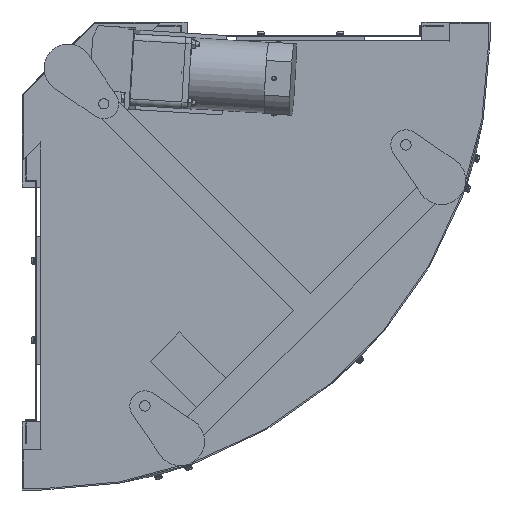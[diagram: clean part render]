
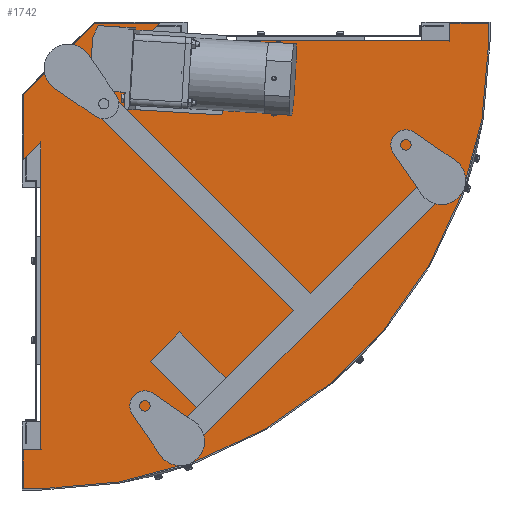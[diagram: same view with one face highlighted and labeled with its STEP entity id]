
A CAD part, front view. The second image highlights one B-rep face of the part: STEP entity #1742.
In plain terms, the highlighted planar face has unit normal (0, -1, 0).
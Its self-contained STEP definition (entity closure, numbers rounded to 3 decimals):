
#1742=ADVANCED_FACE('',(#2824),#2823,.F.);
#2823=PLANE('',#12981);
#2824=FACE_OUTER_BOUND('',#12982,.T.);
#12978=CARTESIAN_POINT('',(-363.4,-143.5,-571.5));
#12979=DIRECTION('',(0.,1.,0.));
#12980=DIRECTION('',(0.,0.,1.));
#12981=AXIS2_PLACEMENT_3D('',#12978,#12979,#12980);
#12982=EDGE_LOOP('',(#20882,#20883,#20884,#20885,#20886,#20887,#20888,#20889,#20890,#20891,#20892,#20893,#20894,#20895,#20896,#20897));
#20882=ORIENTED_EDGE('',*,*,#25742,.F.);
#20883=ORIENTED_EDGE('',*,*,#25743,.F.);
#20884=ORIENTED_EDGE('',*,*,#25744,.T.);
#20885=ORIENTED_EDGE('',*,*,#25745,.T.);
#20886=ORIENTED_EDGE('',*,*,#25746,.T.);
#20887=ORIENTED_EDGE('',*,*,#25747,.T.);
#20888=ORIENTED_EDGE('',*,*,#25748,.T.);
#20889=ORIENTED_EDGE('',*,*,#25749,.F.);
#20890=ORIENTED_EDGE('',*,*,#25750,.F.);
#20891=ORIENTED_EDGE('',*,*,#25751,.T.);
#20892=ORIENTED_EDGE('',*,*,#25752,.T.);
#20893=ORIENTED_EDGE('',*,*,#25753,.T.);
#20894=ORIENTED_EDGE('',*,*,#25754,.T.);
#20895=ORIENTED_EDGE('',*,*,#25755,.T.);
#20896=ORIENTED_EDGE('',*,*,#25756,.T.);
#20897=ORIENTED_EDGE('',*,*,#25757,.T.);
#25742=EDGE_CURVE('',#28364,#28365,#28366,.T.);
#25743=EDGE_CURVE('',#28372,#28364,#28373,.T.);
#25744=EDGE_CURVE('',#28372,#28379,#28380,.T.);
#25745=EDGE_CURVE('',#28379,#28386,#28387,.T.);
#25746=EDGE_CURVE('',#28386,#28393,#28394,.T.);
#25747=EDGE_CURVE('',#28393,#28400,#28401,.T.);
#25748=EDGE_CURVE('',#28400,#28407,#28408,.T.);
#25749=EDGE_CURVE('',#28414,#28407,#28415,.T.);
#25750=EDGE_CURVE('',#28421,#28414,#28422,.T.);
#25751=EDGE_CURVE('',#28421,#28428,#28429,.T.);
#25752=EDGE_CURVE('',#28428,#28435,#28436,.T.);
#25753=EDGE_CURVE('',#28435,#28442,#28443,.T.);
#25754=EDGE_CURVE('',#28442,#28449,#28450,.T.);
#25755=EDGE_CURVE('',#28449,#28456,#28457,.T.);
#25756=EDGE_CURVE('',#28456,#28463,#28464,.T.);
#25757=EDGE_CURVE('',#28463,#28365,#28470,.T.);
#28364=VERTEX_POINT('',#44848);
#28365=VERTEX_POINT('',#44849);
#28366=CIRCLE('',#44853,512.5);
#28372=VERTEX_POINT('',#44854);
#28373=LINE('',#44855,#44856);
#28379=VERTEX_POINT('',#44858);
#28380=LINE('',#44859,#44860);
#28386=VERTEX_POINT('',#44862);
#28387=LINE('',#44863,#44864);
#28393=VERTEX_POINT('',#44866);
#28394=LINE('',#44867,#44868);
#28400=VERTEX_POINT('',#44870);
#28401=LINE('',#44871,#44872);
#28407=VERTEX_POINT('',#44874);
#28408=LINE('',#44875,#44876);
#28414=VERTEX_POINT('',#44878);
#28415=LINE('',#44879,#44880);
#28421=VERTEX_POINT('',#44882);
#28422=CIRCLE('',#44886,512.5);
#28428=VERTEX_POINT('',#44887);
#28429=LINE('',#44888,#44889);
#28435=VERTEX_POINT('',#44891);
#28436=LINE('',#44892,#44893);
#28442=VERTEX_POINT('',#44895);
#28443=LINE('',#44896,#44897);
#28449=VERTEX_POINT('',#44899);
#28450=CIRCLE('',#44903,561.5);
#28456=VERTEX_POINT('',#44904);
#28457=LINE('',#44905,#44906);
#28463=VERTEX_POINT('',#44908);
#28464=LINE('',#44909,#44910);
#28470=LINE('',#44912,#44913);
#44848=CARTESIAN_POINT('',(182.497,-143.5,1.621));
#44849=CARTESIAN_POINT('',(182.5,-143.5,0.));
#44850=CARTESIAN_POINT('',(-330.,-143.5,0.));
#44851=DIRECTION('',(0.,1.,0.));
#44852=DIRECTION('',(0.,0.,-1.));
#44853=AXIS2_PLACEMENT_3D('',#44850,#44851,#44852);
#44854=CARTESIAN_POINT('',(-204.225,-143.5,1.675));
#44855=CARTESIAN_POINT('',(-204.225,-143.5,1.675));
#44856=VECTOR('',#44857,386.723);
#44857=DIRECTION('',(1.,0.,0.));
#44858=CARTESIAN_POINT('',(-182.5,-143.5,23.4));
#44859=CARTESIAN_POINT('',(-204.225,-143.5,1.675));
#44860=VECTOR('',#44861,30.724);
#44861=DIRECTION('',(0.707,0.,0.707));
#44862=CARTESIAN_POINT('',(-263.337,-143.5,23.4));
#44863=CARTESIAN_POINT('',(-182.5,-143.5,23.4));
#44864=VECTOR('',#44865,80.837);
#44865=DIRECTION('',(-1.,0.,0.));
#44866=CARTESIAN_POINT('',(-353.4,-143.5,-66.663));
#44867=CARTESIAN_POINT('',(-263.337,-143.5,23.4));
#44868=VECTOR('',#44869,127.368);
#44869=DIRECTION('',(-0.707,0.,-0.707));
#44870=CARTESIAN_POINT('',(-353.4,-143.5,-147.5));
#44871=CARTESIAN_POINT('',(-353.4,-143.5,-66.663));
#44872=VECTOR('',#44873,80.837);
#44873=DIRECTION('',(0.,0.,-1.));
#44874=CARTESIAN_POINT('',(-331.675,-143.5,-125.775));
#44875=CARTESIAN_POINT('',(-353.4,-143.5,-147.5));
#44876=VECTOR('',#44877,30.724);
#44877=DIRECTION('',(0.707,0.,0.707));
#44878=CARTESIAN_POINT('',(-331.621,-143.5,-512.497));
#44879=CARTESIAN_POINT('',(-331.621,-143.5,-512.497));
#44880=VECTOR('',#44881,386.723);
#44881=DIRECTION('',(0.,0.,1.));
#44882=CARTESIAN_POINT('',(-330.,-143.5,-512.5));
#44883=CARTESIAN_POINT('',(-330.,-143.5,0.));
#44884=DIRECTION('',(0.,1.,0.));
#44885=DIRECTION('',(0.,0.,-1.));
#44886=AXIS2_PLACEMENT_3D('',#44883,#44884,#44885);
#44887=CARTESIAN_POINT('',(-353.4,-143.5,-512.5));
#44888=CARTESIAN_POINT('',(-330.,-143.5,-512.5));
#44889=VECTOR('',#44890,23.4);
#44890=DIRECTION('',(-1.,0.,0.));
#44891=CARTESIAN_POINT('',(-353.4,-143.5,-561.5));
#44892=CARTESIAN_POINT('',(-353.4,-143.5,-512.5));
#44893=VECTOR('',#44894,49.);
#44894=DIRECTION('',(0.,0.,-1.));
#44895=CARTESIAN_POINT('',(-330.,-143.5,-561.5));
#44896=CARTESIAN_POINT('',(-353.4,-143.5,-561.5));
#44897=VECTOR('',#44898,23.4);
#44898=DIRECTION('',(1.,0.,0.));
#44899=CARTESIAN_POINT('',(231.5,-143.5,0.));
#44900=CARTESIAN_POINT('',(-330.,-143.5,0.));
#44901=DIRECTION('',(0.,-1.,0.));
#44902=DIRECTION('',(0.,0.,-1.));
#44903=AXIS2_PLACEMENT_3D('',#44900,#44901,#44902);
#44904=CARTESIAN_POINT('',(231.5,-143.5,23.4));
#44905=CARTESIAN_POINT('',(231.5,-143.5,0.));
#44906=VECTOR('',#44907,23.4);
#44907=DIRECTION('',(0.,0.,1.));
#44908=CARTESIAN_POINT('',(182.5,-143.5,23.4));
#44909=CARTESIAN_POINT('',(231.5,-143.5,23.4));
#44910=VECTOR('',#44911,49.);
#44911=DIRECTION('',(-1.,0.,0.));
#44912=CARTESIAN_POINT('',(182.5,-143.5,23.4));
#44913=VECTOR('',#44914,23.4);
#44914=DIRECTION('',(0.,0.,-1.));
